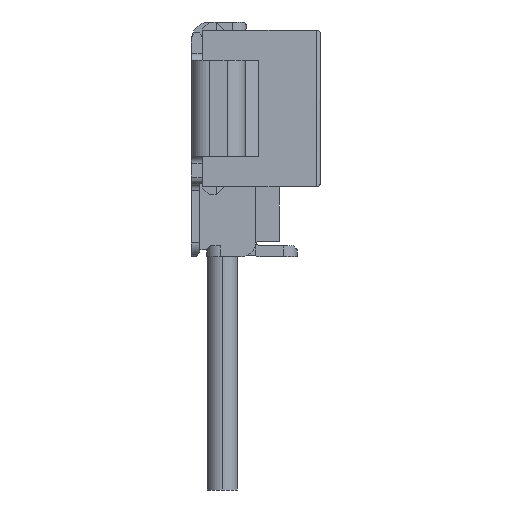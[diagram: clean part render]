
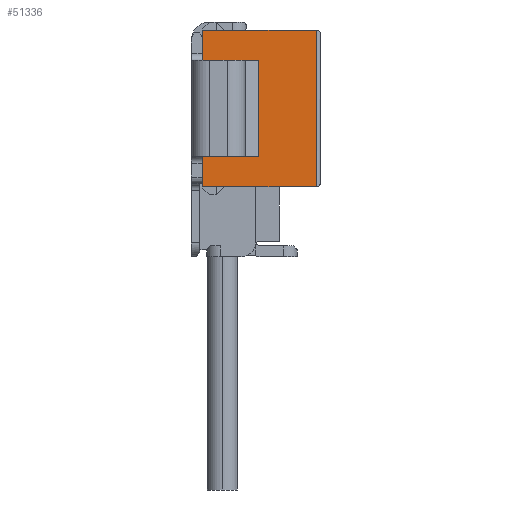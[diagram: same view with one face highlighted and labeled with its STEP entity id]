
A CAD part, left-side view. The second image highlights one B-rep face of the part: STEP entity #51336.
In plain terms, the highlighted planar face has unit normal (-1, 0, 0).
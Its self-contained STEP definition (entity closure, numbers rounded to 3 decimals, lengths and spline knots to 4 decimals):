
#3657 = FACE_OUTER_BOUND ( 'NONE', #58961, .T. ) ;
#7091 = LINE ( 'NONE', #8949, #7094 ) ;
#7094 = VECTOR ( 'NONE', #8951, 1000. ) ;
#7099 = LINE ( 'NONE', #8957, #7102 ) ;
#7102 = VECTOR ( 'NONE', #8958, 1000. ) ;
#8949 = CARTESIAN_POINT ( 'NONE',  ( -1.65, 0.36, 0.45 ) ) ;
#8951 = DIRECTION ( 'NONE',  ( 0., 0., -1. ) ) ;
#8957 = CARTESIAN_POINT ( 'NONE',  ( -1.65, -0.06, 0.57 ) ) ;
#8958 = DIRECTION ( 'NONE',  ( 0., 1., 0. ) ) ;
#8989 = CARTESIAN_POINT ( 'NONE',  ( -1.65, -0.06, -0.7 ) ) ;
#8990 = DIRECTION ( 'NONE',  ( 0., 0., 1. ) ) ;
#9088 = CARTESIAN_POINT ( 'NONE',  ( -1.65, -0.06, 0.57 ) ) ;
#9305 = LINE ( 'NONE', #8989, #9308 ) ;
#9308 = VECTOR ( 'NONE', #8990, 1000. ) ;
#10785 = AXIS2_PLACEMENT_3D ( 'NONE', #15133, #15150, #15152 ) ;
#15133 = CARTESIAN_POINT ( 'NONE',  ( -1.65, 0.35, -0.7 ) ) ;
#15147 = PLANE ( 'NONE',  #10785 ) ;
#15150 = DIRECTION ( 'NONE',  ( 1., 0., 0. ) ) ;
#15152 = DIRECTION ( 'NONE',  ( 0., 0., -1. ) ) ;
#18356 = EDGE_CURVE ( 'NONE', #50256, #50247, #7091, .T. ) ;
#18364 = EDGE_CURVE ( 'NONE', #19131, #50216, #7099, .T. ) ;
#18397 = EDGE_CURVE ( 'NONE', #50261, #19131, #9305, .T. ) ;
#19131 = VERTEX_POINT ( 'NONE', #9088 ) ;
#28130 = CARTESIAN_POINT ( 'NONE',  ( -1.65, 0.77, -0.3542 ) ) ;
#32917 = VERTEX_POINT ( 'NONE', #40852 ) ;
#33042 = VERTEX_POINT ( 'NONE', #40890 ) ;
#33300 = VERTEX_POINT ( 'NONE', #40975 ) ;
#34322 = LINE ( 'NONE', #41034, #34325 ) ;
#34325 = VECTOR ( 'NONE', #41029, 1000. ) ;
#34330 = LINE ( 'NONE', #41048, #34334 ) ;
#34334 = VECTOR ( 'NONE', #41049, 1000. ) ;
#34337 = LINE ( 'NONE', #41055, #34342 ) ;
#34342 = VECTOR ( 'NONE', #41056, 1000. ) ;
#34382 = LINE ( 'NONE', #41092, #34386 ) ;
#34385 = LINE ( 'NONE', #41094, #34389 ) ;
#34386 = VECTOR ( 'NONE', #41093, 1000. ) ;
#34389 = VECTOR ( 'NONE', #41095, 1000. ) ;
#39949 = EDGE_CURVE ( 'NONE', #50216, #33042, #34322, .T. ) ;
#39956 = EDGE_CURVE ( 'NONE', #33042, #32917, #34330, .T. ) ;
#39963 = EDGE_CURVE ( 'NONE', #32917, #50256, #34337, .T. ) ;
#40004 = EDGE_CURVE ( 'NONE', #50247, #33300, #34382, .T. ) ;
#40006 = EDGE_CURVE ( 'NONE', #33300, #64050, #34385, .T. ) ;
#40852 = CARTESIAN_POINT ( 'NONE',  ( -1.65, 0.77, 0.35 ) ) ;
#40890 = CARTESIAN_POINT ( 'NONE',  ( -1.65, 0.77, 0.3542 ) ) ;
#40975 = CARTESIAN_POINT ( 'NONE',  ( -1.65, 0.77, -0.35 ) ) ;
#41029 = DIRECTION ( 'NONE',  ( 0., 0., -1. ) ) ;
#41034 = CARTESIAN_POINT ( 'NONE',  ( -1.65, 0.77, 0.57 ) ) ;
#41048 = CARTESIAN_POINT ( 'NONE',  ( -1.65, 0.77, 0.57 ) ) ;
#41049 = DIRECTION ( 'NONE',  ( 0., 0., -1. ) ) ;
#41055 = CARTESIAN_POINT ( 'NONE',  ( -1.65, 0.77, 0.35 ) ) ;
#41056 = DIRECTION ( 'NONE',  ( 0., -1., 0. ) ) ;
#41092 = CARTESIAN_POINT ( 'NONE',  ( -1.65, 0.77, -0.35 ) ) ;
#41093 = DIRECTION ( 'NONE',  ( 0., 1., 0. ) ) ;
#41094 = CARTESIAN_POINT ( 'NONE',  ( -1.65, 0.77, -0.35 ) ) ;
#41095 = DIRECTION ( 'NONE',  ( 0., 0., -1. ) ) ;
#45540 = LINE ( 'NONE', #46841, #45552 ) ;
#45546 = LINE ( 'NONE', #46842, #45555 ) ;
#45552 = VECTOR ( 'NONE', #46845, 1000. ) ;
#45555 = VECTOR ( 'NONE', #46847, 1000. ) ;
#46841 = CARTESIAN_POINT ( 'NONE',  ( -1.65, 0.77, -0.57 ) ) ;
#46842 = CARTESIAN_POINT ( 'NONE',  ( -1.65, 0.77, -0.35 ) ) ;
#46845 = DIRECTION ( 'NONE',  ( 0., -1., 0. ) ) ;
#46847 = DIRECTION ( 'NONE',  ( 0., 0., -1. ) ) ;
#47203 = CARTESIAN_POINT ( 'NONE',  ( -1.65, 0.77, 0.57 ) ) ;
#47227 = CARTESIAN_POINT ( 'NONE',  ( -1.65, 0.36, -0.35 ) ) ;
#47229 = CARTESIAN_POINT ( 'NONE',  ( -1.65, 0.36, 0.35 ) ) ;
#47237 = CARTESIAN_POINT ( 'NONE',  ( -1.65, -0.06, -0.57 ) ) ;
#49366 = EDGE_CURVE ( 'NONE', #67848, #50261, #45540, .T. ) ;
#49368 = EDGE_CURVE ( 'NONE', #64050, #67848, #45546, .T. ) ;
#50216 = VERTEX_POINT ( 'NONE', #47203 ) ;
#50247 = VERTEX_POINT ( 'NONE', #47227 ) ;
#50256 = VERTEX_POINT ( 'NONE', #47229 ) ;
#50261 = VERTEX_POINT ( 'NONE', #47237 ) ;
#51336 = ADVANCED_FACE ( 'NONE', ( #3657 ), #15147, .F. ) ;
#58961 = EDGE_LOOP ( 'NONE', ( #65786, #65781, #65777, #65769, #65768, #65765, #65762, #65759, #65756, #65753 ) ) ;
#59915 = CARTESIAN_POINT ( 'NONE',  ( -1.65, 0.77, -0.57 ) ) ;
#64050 = VERTEX_POINT ( 'NONE', #28130 ) ;
#65753 = ORIENTED_EDGE ( 'NONE', *, *, #49368, .T. ) ;
#65756 = ORIENTED_EDGE ( 'NONE', *, *, #40006, .T. ) ;
#65759 = ORIENTED_EDGE ( 'NONE', *, *, #40004, .T. ) ;
#65762 = ORIENTED_EDGE ( 'NONE', *, *, #18356, .T. ) ;
#65765 = ORIENTED_EDGE ( 'NONE', *, *, #39963, .T. ) ;
#65768 = ORIENTED_EDGE ( 'NONE', *, *, #39956, .T. ) ;
#65769 = ORIENTED_EDGE ( 'NONE', *, *, #39949, .T. ) ;
#65777 = ORIENTED_EDGE ( 'NONE', *, *, #18364, .T. ) ;
#65781 = ORIENTED_EDGE ( 'NONE', *, *, #18397, .T. ) ;
#65786 = ORIENTED_EDGE ( 'NONE', *, *, #49366, .T. ) ;
#67848 = VERTEX_POINT ( 'NONE', #59915 ) ;
